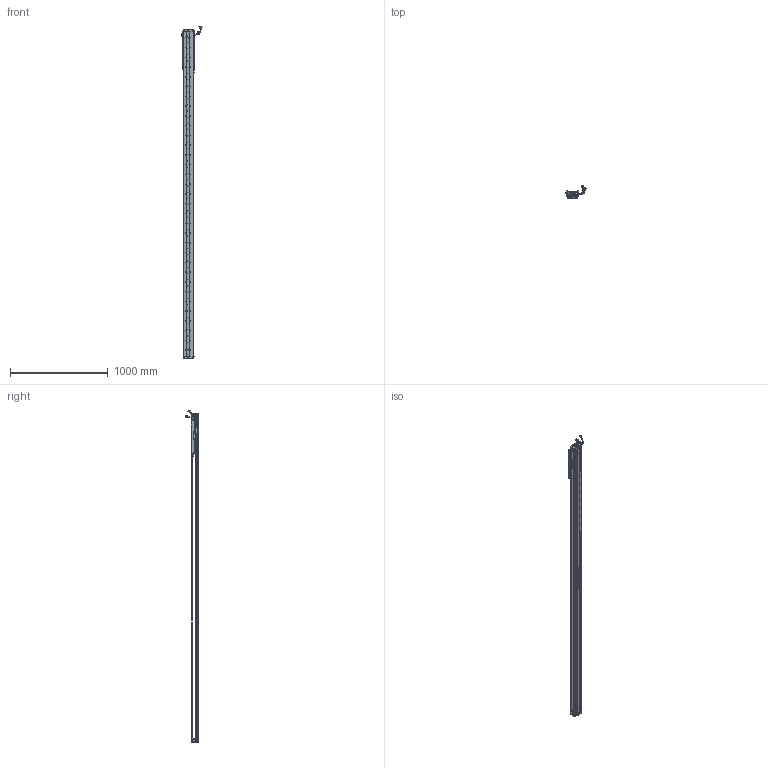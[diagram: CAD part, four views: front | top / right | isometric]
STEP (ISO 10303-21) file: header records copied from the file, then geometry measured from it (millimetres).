
FILE_DESCRIPTION (( 'STEP AP203' ), '1' );
FILE_NAME ('Z5-RY100D-1-L500-B-K.SLDASM_2900.step', '2021-05-17T03:35:45', ( '盈信电脑' ), ( '东莞市道滘镇水果街19号' ), 'SwSTEP 2.0', 'SolidWorks 2016', '' );
FILE_SCHEMA (( 'CONFIG_CONTROL_DESIGN' ));
Length unit declared in the file: millimetre
Products named in the file (36): Z5-RY100-L500詩湍90mm遵_2900; HARNESS-Part-1; SCREW-M1.6-2; COVER; PBU_SHEET; 080黍杅芛假蚾釱21遴; 榋妏寠巭燃_暯_M2_2; SHIELDPLATE; 140雄赽晤鎢ん堤盄; Z5-RY100铝滑块（21款）; 140蚥薯蝶輸; SCALE-Part-1; SCREW-M1.7; SCREW-M1.6; HARNESS; Z5-RY100D-500-倰第菁釱_2900; SCALE-Part-2; SCREW-M1.6-1; Z-100詩湍傷裔啣; HOLDER0; SEAL-Part-1; SCALE; Z-RY100D詩湍狟揤裔; SCREW-M1.7-1; Z-RY100D詩湍奻揤裔; 覜茼ん672; HARNESS-Part-2; PSLH080_PSLF2; SCREW-M1.6-3; Z5-RY100D-1-L500-B-K.SLDASM_2900; LABEL; 100-Z-臏賑輸盄裔(21遴); LABEL-Part-1; COVER-Part-1; Z-RY100D覜茼んえ; SEAL
Assembly tree (43 placements, depth 4):
  Z5-RY100D-1-L500-B-K.SLDASM_2900
    Z5-RY100D-500-倰第菁釱_2900
    Z5-RY100铝滑块（21款）
    PSLH080_PSLF2
      SCALE
        SCALE-Part-1
        SCALE-Part-2
      HARNESS
        HARNESS-Part-1
        HARNESS-Part-2
      LABEL
        LABEL-Part-1
      COVER
        COVER-Part-1
      SEAL
        SEAL-Part-1
      榋妏寠巭燃_暯_M2_2
      SHIELDPLATE
      SCREW-M1.7
      SCREW-M1.7-1
      PBU_SHEET
      SCREW-M1.6
      SCREW-M1.6-1
      SCREW-M1.6-2
      SCREW-M1.6-3
      HOLDER0
    080黍杅芛假蚾釱21遴
    Z-100詩湍傷裔啣  x2
    140蚥薯蝶輸  x2
    覜茼ん672  x3
    Z-RY100D覜茼んえ  x3
    100-Z-臏賑輸盄裔(21遴)
    140雄赽晤鎢ん堤盄
    Z5-RY100-L500詩湍90mm遵_2900
    Z-RY100D詩湍狟揤裔  x2
    Z-RY100D詩湍奻揤裔  x2
Bounding box: 205.79 x 136.11 x 3400.43 mm (x, y, z)
Volume: 6270569.5 mm3; surface area: 2448515.7 mm2
Topology: 38 solids, 38 shells, 3207 faces, 8869 edges, 5680 vertices
Faces by surface type: cylinder 1646, plane 1213, cone 226, torus 69, bspline 53
Entity records: 94915 total; most frequent: CARTESIAN_POINT 19815, DIRECTION 15411, ORIENTED_EDGE 14618, EDGE_CURVE 7309, AXIS2_PLACEMENT_3D 5840, VERTEX_POINT 4748, LINE 3731, VECTOR 3731
